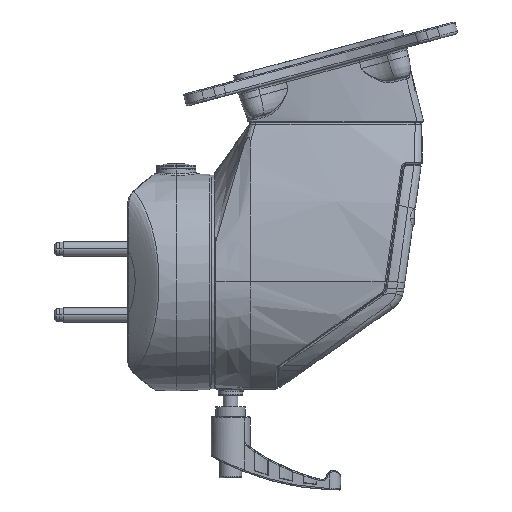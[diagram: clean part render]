
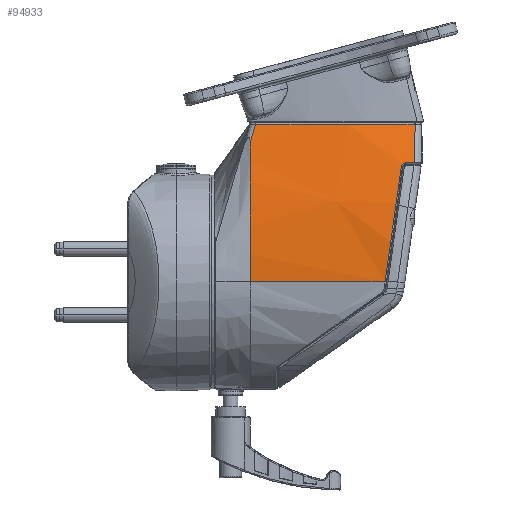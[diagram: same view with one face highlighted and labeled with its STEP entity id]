
A CAD part, left-side view. The second image highlights one B-rep face of the part: STEP entity #94933.
In plain terms, the highlighted free-form (B-spline) face has degree [3, 3] with [5, 5] control points.
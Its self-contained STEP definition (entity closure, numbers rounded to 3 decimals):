
#61171=DIRECTION('',(0.,1.,0.));
#61172=VECTOR('',#61171,55.175);
#61173=CARTESIAN_POINT('',(44.,15.,0.));
#61174=LINE('',#61173,#61172);
#61192=CARTESIAN_POINT('',(29.618,17.142,64.427));
#61193=CARTESIAN_POINT('',(29.942,16.914,63.661));
#61194=CARTESIAN_POINT('',(30.599,16.45,62.085));
#61195=CARTESIAN_POINT('',(31.612,15.732,59.574));
#61196=CARTESIAN_POINT('',(32.294,15.244,57.817));
#61197=CARTESIAN_POINT('',(32.637,14.998,56.916));
#61202=CARTESIAN_POINT('',(29.684,82.445,64.425));
#61203=CARTESIAN_POINT('',(29.917,80.971,64.419));
#61204=CARTESIAN_POINT('',(30.35,78.022,64.409));
#61205=CARTESIAN_POINT('',(30.886,73.768,64.395));
#61206=CARTESIAN_POINT('',(31.368,69.176,64.383));
#61207=CARTESIAN_POINT('',(31.763,64.35,64.372));
#61208=CARTESIAN_POINT('',(32.058,59.248,64.364));
#61209=CARTESIAN_POINT('',(32.228,53.968,64.36));
#61210=CARTESIAN_POINT('',(32.262,48.659,64.359));
#61211=CARTESIAN_POINT('',(32.16,43.417,64.362));
#61212=CARTESIAN_POINT('',(31.928,38.22,64.368));
#61213=CARTESIAN_POINT('',(31.577,33.185,64.377));
#61214=CARTESIAN_POINT('',(31.114,28.244,64.389));
#61215=CARTESIAN_POINT('',(30.503,23.055,64.405));
#61216=CARTESIAN_POINT('',(29.943,19.17,64.419));
#61217=CARTESIAN_POINT('',(29.618,17.142,64.427));
#61222=CARTESIAN_POINT('',(29.684,82.445,64.425));
#61223=CARTESIAN_POINT('',(30.161,82.432,63.41));
#61224=CARTESIAN_POINT('',(31.092,82.405,61.367));
#61225=CARTESIAN_POINT('',(32.424,82.366,58.263));
#61226=CARTESIAN_POINT('',(33.687,82.33,55.124));
#61227=CARTESIAN_POINT('',(34.882,82.295,51.951));
#61228=CARTESIAN_POINT('',(35.631,82.273,49.816));
#61229=CARTESIAN_POINT('',(35.994,82.262,48.743));
#61234=CARTESIAN_POINT('',(36.295,78.734,48.676));
#61235=CARTESIAN_POINT('',(36.263,79.126,48.684));
#61236=CARTESIAN_POINT('',(36.199,79.909,48.699));
#61237=CARTESIAN_POINT('',(36.099,81.085,48.721));
#61238=CARTESIAN_POINT('',(36.029,81.87,48.736));
#61239=CARTESIAN_POINT('',(35.994,82.262,48.743));
#61244=CARTESIAN_POINT('',(36.975,76.784,46.947));
#61245=CARTESIAN_POINT('',(36.914,76.811,47.139));
#61246=CARTESIAN_POINT('',(36.79,76.922,47.519));
#61247=CARTESIAN_POINT('',(36.616,77.241,48.008));
#61248=CARTESIAN_POINT('',(36.467,77.674,48.381));
#61249=CARTESIAN_POINT('',(36.354,78.191,48.617));
#61250=CARTESIAN_POINT('',(36.309,78.551,48.673));
#61251=CARTESIAN_POINT('',(36.295,78.734,48.676));
#61256=CARTESIAN_POINT('',(44.,70.175,0.));
#61257=CARTESIAN_POINT('',(44.,70.748,4.089));
#61258=CARTESIAN_POINT('',(43.697,71.904,12.328));
#61259=CARTESIAN_POINT('',(42.356,73.583,24.273));
#61260=CARTESIAN_POINT('',(40.141,75.222,35.904));
#61261=CARTESIAN_POINT('',(38.132,76.264,43.276));
#61262=CARTESIAN_POINT('',(36.975,76.784,46.947));
#61761=CARTESIAN_POINT('',(32.637,14.998,56.916));
#61799=CARTESIAN_POINT('',(-104.245,15.,0.));
#61800=DIRECTION('',(0.,-1.,0.));
#61801=DIRECTION('',(0.974,0.,0.225));
#61802=AXIS2_PLACEMENT_3D('',#61799,#61800,#61801);
#61807=CARTESIAN_POINT('',(-104.245,15.,0.));
#61808=DIRECTION('',(0.,-1.,0.));
#61809=DIRECTION('',(1.,0.,0.));
#61810=AXIS2_PLACEMENT_3D('',#61807,#61808,#61809);
#72102=CARTESIAN_POINT('',(44.,15.,0.));
#72103=CARTESIAN_POINT('',(40.209,15.,33.31));
#72104=VERTEX_POINT('',#72102);
#72105=VERTEX_POINT('',#72103);
#72126=VERTEX_POINT('',#61761);
#72142=VERTEX_POINT('',#61256);
#72143=VERTEX_POINT('',#61262);
#72322=VERTEX_POINT('',#61192);
#72765=VERTEX_POINT('',#61222);
#72766=VERTEX_POINT('',#61229);
#73192=VERTEX_POINT('',#61234);
#94889=CARTESIAN_POINT('',(28.86,14.329,65.027));
#94890=CARTESIAN_POINT('',(30.946,26.219,65.028));
#94891=CARTESIAN_POINT('',(32.957,49.147,65.029));
#94892=CARTESIAN_POINT('',(31.09,72.076,65.028));
#94893=CARTESIAN_POINT('',(29.293,83.113,65.028));
#94894=CARTESIAN_POINT('',(33.822,14.329,54.947));
#94895=CARTESIAN_POINT('',(35.218,26.219,54.833));
#94896=CARTESIAN_POINT('',(36.63,49.147,54.522));
#94897=CARTESIAN_POINT('',(35.319,72.076,54.811));
#94898=CARTESIAN_POINT('',(34.112,83.113,54.922));
#94899=CARTESIAN_POINT('',(41.505,14.329,33.435));
#94900=CARTESIAN_POINT('',(41.858,26.219,33.179));
#94901=CARTESIAN_POINT('',(42.166,49.147,32.982));
#94902=CARTESIAN_POINT('',(41.88,72.076,33.165));
#94903=CARTESIAN_POINT('',(41.578,83.113,33.382));
#94904=CARTESIAN_POINT('',(44.05,14.329,10.753));
#94905=CARTESIAN_POINT('',(44.045,26.219,10.672));
#94906=CARTESIAN_POINT('',(44.036,49.147,10.699));
#94907=CARTESIAN_POINT('',(44.044,72.076,10.674));
#94908=CARTESIAN_POINT('',(44.049,83.113,10.737));
#94909=CARTESIAN_POINT('',(43.999,14.329,
-0.663));
#94910=CARTESIAN_POINT('',(43.999,26.219,
-0.658));
#94911=CARTESIAN_POINT('',(43.999,49.147,
-0.659));
#94912=CARTESIAN_POINT('',(43.999,72.076,
-0.658));
#94913=CARTESIAN_POINT('',(43.999,83.113,
-0.662));
#94914=B_SPLINE_SURFACE_WITH_KNOTS('',3,3,((#94889,#94890,#94891,#94892,#94893),
(#94894,#94895,#94896,#94897,#94898),(#94899,#94900,#94901,#94902,#94903),(
#94904,#94905,#94906,#94907,#94908),(#94909,#94910,#94911,#94912,#94913)),
.UNSPECIFIED.,.F.,.F.,.F.,(4,1,4),(4,1,4),(0.,0.5,
1.01),(-0.672,35.043,68.197),
.UNSPECIFIED.);
#94916=ORIENTED_EDGE('',*,*,#94915,.F.);
#94918=ORIENTED_EDGE('',*,*,#94917,.F.);
#94920=ORIENTED_EDGE('',*,*,#94919,.T.);
#94922=ORIENTED_EDGE('',*,*,#94921,.F.);
#94924=ORIENTED_EDGE('',*,*,#94923,.F.);
#94925=ORIENTED_EDGE('',*,*,#94873,.F.);
#94926=ORIENTED_EDGE('',*,*,#94776,.F.);
#94928=ORIENTED_EDGE('',*,*,#94927,.T.);
#94930=ORIENTED_EDGE('',*,*,#94929,.T.);
#94931=EDGE_LOOP('',(#94916,#94918,#94920,#94922,#94924,#94925,#94926,#94928,
#94930));
#94932=FACE_OUTER_BOUND('',#94931,.F.);
#61198=B_SPLINE_CURVE_WITH_KNOTS('',3,(#61192,#61193,#61194,#61195,#61196,
#61197),.UNSPECIFIED.,.F.,.F.,(4,1,1,4),(0.,0.333,
0.667,1.),.UNSPECIFIED.);
#61218=B_SPLINE_CURVE_WITH_KNOTS('',3,(#61202,#61203,#61204,#61205,#61206,
#61207,#61208,#61209,#61210,#61211,#61212,#61213,#61214,#61215,#61216,#61217),
.UNSPECIFIED.,.F.,.F.,(4,1,1,1,1,1,1,1,1,1,1,1,1,4),(0.,0.077,
0.154,0.231,0.308,0.385,
0.462,0.538,0.615,0.692,
0.769,0.846,0.923,1.),.UNSPECIFIED.);
#61230=B_SPLINE_CURVE_WITH_KNOTS('',3,(#61222,#61223,#61224,#61225,#61226,
#61227,#61228,#61229),.UNSPECIFIED.,.F.,.F.,(4,1,1,1,1,4),(0.,0.2,0.4,
0.6,0.8,1.),.UNSPECIFIED.);
#61240=B_SPLINE_CURVE_WITH_KNOTS('',3,(#61234,#61235,#61236,#61237,#61238,
#61239),.UNSPECIFIED.,.F.,.F.,(4,1,1,4),(0.,0.333,
0.667,1.),.UNSPECIFIED.);
#61252=B_SPLINE_CURVE_WITH_KNOTS('',3,(#61244,#61245,#61246,#61247,#61248,
#61249,#61250,#61251),.UNSPECIFIED.,.F.,.F.,(4,1,1,1,1,4),(0.,
0.2,0.4,0.6,0.8,1.),
.UNSPECIFIED.);
#61263=B_SPLINE_CURVE_WITH_KNOTS('',3,(#61256,#61257,#61258,#61259,#61260,
#61261,#61262),.UNSPECIFIED.,.F.,.F.,(4,1,1,1,4),(0.,0.25,0.5,0.75,
1.),.UNSPECIFIED.);
#61803=CIRCLE('',#61802,148.245);
#61811=CIRCLE('',#61810,148.245);
#94776=EDGE_CURVE('',#72104,#72142,#61174,.T.);
#94873=EDGE_CURVE('',#72142,#72143,#61263,.T.);
#94915=EDGE_CURVE('',#72322,#72126,#61198,.T.);
#94917=EDGE_CURVE('',#72765,#72322,#61218,.T.);
#94919=EDGE_CURVE('',#72765,#72766,#61230,.T.);
#94921=EDGE_CURVE('',#73192,#72766,#61240,.T.);
#94923=EDGE_CURVE('',#72143,#73192,#61252,.T.);
#94927=EDGE_CURVE('',#72104,#72105,#61811,.T.);
#94929=EDGE_CURVE('',#72105,#72126,#61803,.T.);
#94933=ADVANCED_FACE('',(#94932),#94914,.T.);
